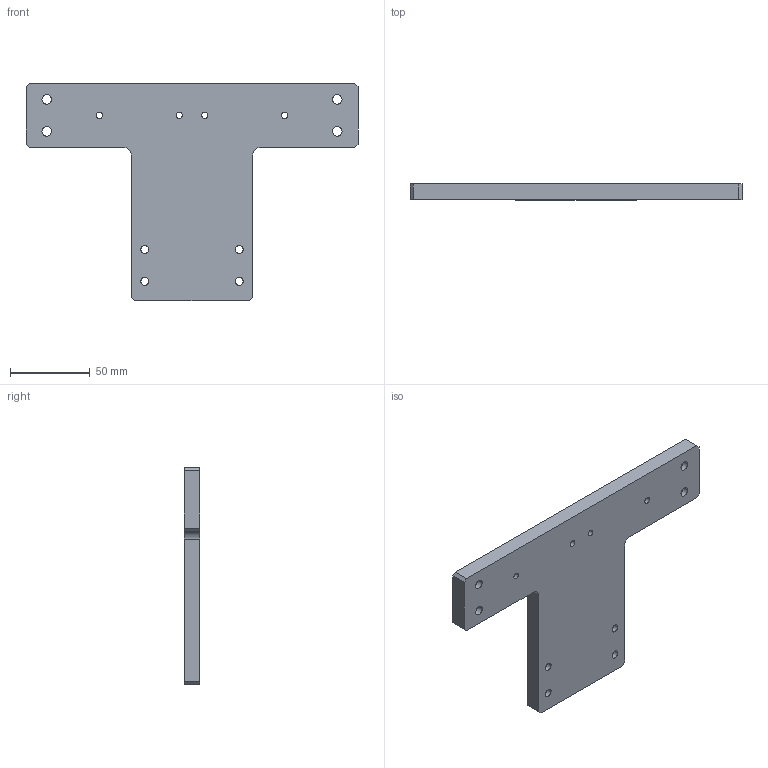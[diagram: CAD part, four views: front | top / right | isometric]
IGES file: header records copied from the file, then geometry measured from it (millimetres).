
Start section:  PTC IGES file: n46-n46l-ft.igs
Global section: file name: n46-n46l-ft.igs; native system: Pro/ENGINEER by Parametric Technology Corporation; preprocessor: 2008230; author: Owner; organization: Unknown; date: 20121212.112524; units: millimetre
Bounding box: 208 x 10 x 136 mm (x, y, z)
Surface area: 39975.4 mm2 (no closed solid volume)
Topology: 0 solids, 0 shells, 66 faces, 336 edges, 336 vertices
Faces by surface type: revolution 42, bspline 24
